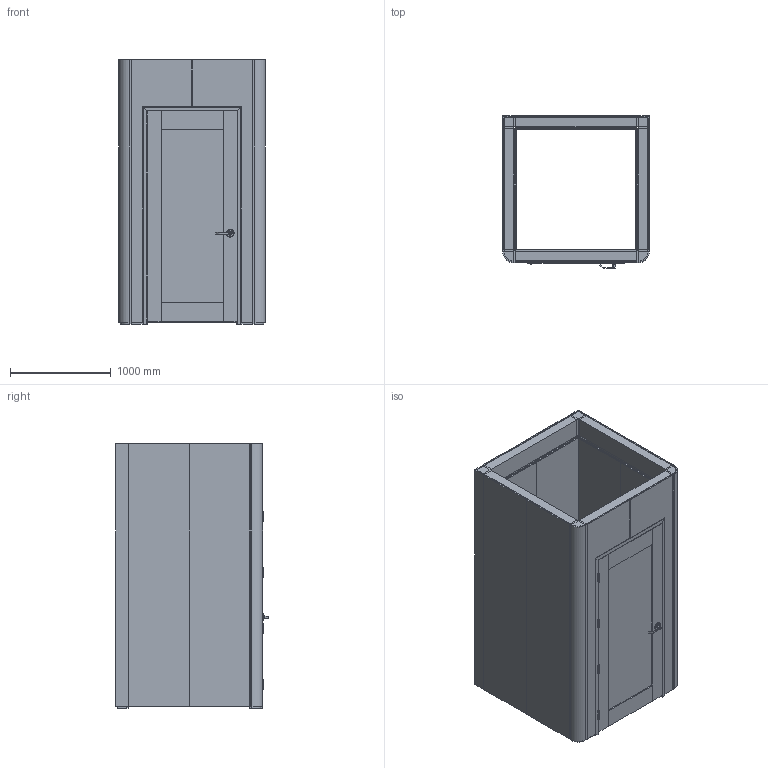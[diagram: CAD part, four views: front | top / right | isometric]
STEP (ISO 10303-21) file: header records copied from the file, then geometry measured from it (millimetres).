
FILE_DESCRIPTION(/* description */ (''),/* implementation_level */ '2;1');
FILE_NAME(/* name */ '120x120',/* time_stamp */ '2026-06-15T15:17:31+12:00',/* author */ (''),/* organization */ (''),/* preprocessor_version */ 'ST-DEVELOPER v19.2',/* originating_system */ 'Rhino 8.31',/* authorisation */ '');
FILE_SCHEMA (('CONFIG_CONTROL_DESIGN'));
Length unit declared in the file: millimetre
Products named in the file (11): Document; 600x2400mm Internal Linings - MDF; 600x2600mm External Lining; CornerPost_2600_92; 600x740mm Internal Linings - Autex; 600x1656mm Internal Linings - Autex; 92x2600mm External Corner Lining; 18mm Packer; 600x2600mm External Door Lining; DoorPanel_1200_2600_92_150_2150; 600x2600mm Internal Door Lining
Bounding box: 1452 x 1506.56 x 2618 mm (x, y, z)
Volume: 694003857.2 mm3; surface area: 83585408.9 mm2
Topology: 70 solids, 73 shells, 516 faces, 1114 edges, 749 vertices
Faces by surface type: plane 486, cylinder 22, bspline 8
Entity records: 11400 total; most frequent: CARTESIAN_POINT 3103, ORIENTED_EDGE 1812, EDGE_CURVE 914, B_SPLINE_CURVE_WITH_KNOTS 792, DIRECTION 648, VERTEX_POINT 608, AXIS2_PLACEMENT_3D 530, EDGE_LOOP 424
